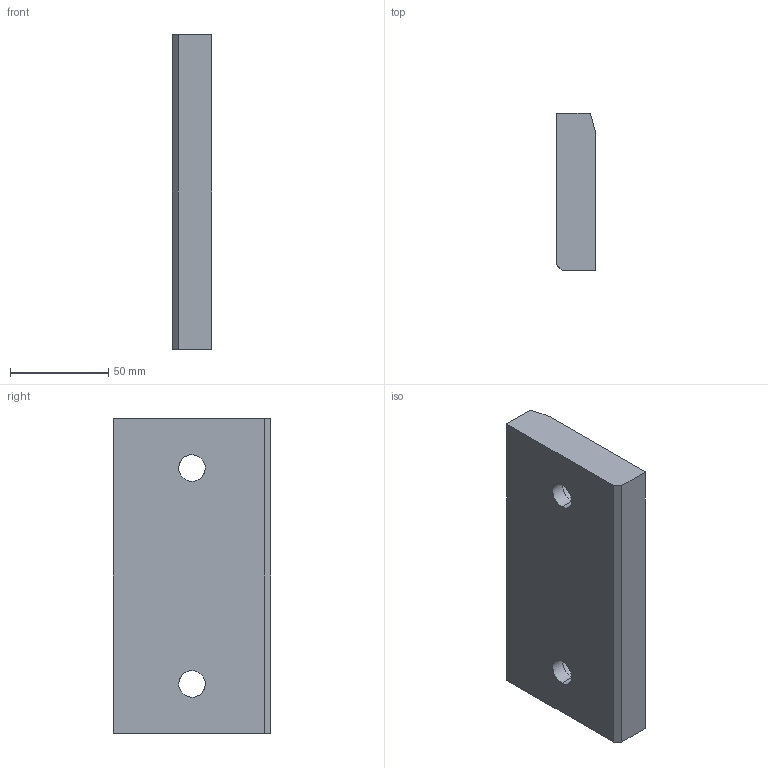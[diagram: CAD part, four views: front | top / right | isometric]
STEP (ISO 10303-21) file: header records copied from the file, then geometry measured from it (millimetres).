
FILE_DESCRIPTION(('CATIA V5 STEP Exchange'),'2;1');
FILE_NAME('C:\Users\borellobunino\Desktop\3D X SITO CF\A915\GSB_OILLESS_G22501160080\STEP-2.03\A915-160X80.stp','2019-07-14T14:09:03+00:00',('none'),('none'),'CATIA Version 5 Release 20 GA (IN-10)','CATIA V5 STEP AP203','none');
FILE_SCHEMA(('CONFIG_CONTROL_DESIGN'));
Length unit declared in the file: millimetre
Products named in the file (1): A915-160X80
Bounding box: 20 x 80 x 160 mm (x, y, z)
Volume: 242702.3 mm3; surface area: 36010.5 mm2
Topology: 1 solids, 1 shells, 23 faces, 73 edges, 54 vertices
Faces by surface type: plane 10, cylinder 9, torus 4
Entity records: 1057 total; most frequent: CARTESIAN_POINT 375, ORIENTED_EDGE 146, DIRECTION 103, EDGE_CURVE 73, AXIS2_PLACEMENT_3D 54, VERTEX_POINT 54, CIRCLE 30, EDGE_LOOP 29
